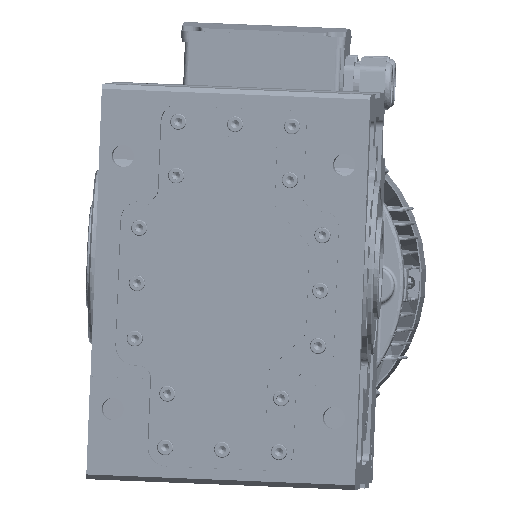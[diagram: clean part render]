
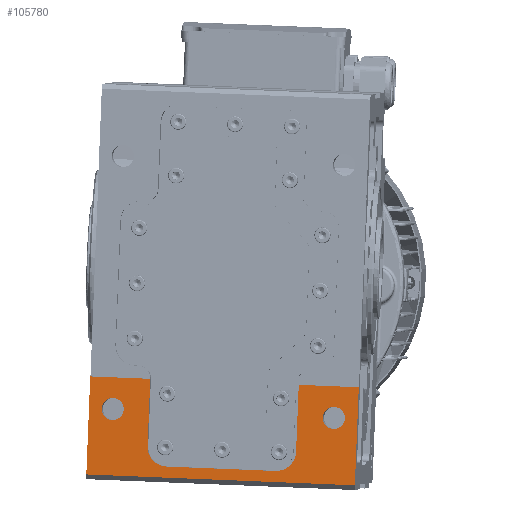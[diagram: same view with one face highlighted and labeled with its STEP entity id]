
A CAD part, top view. The second image highlights one B-rep face of the part: STEP entity #105780.
In plain terms, the highlighted planar face has unit normal (-0.04, -0.008, 0.999) as drawn and (0, 0, 1) by its records, which use the part's own axes.
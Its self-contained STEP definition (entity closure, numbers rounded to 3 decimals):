
#4454 = EDGE_CURVE ( 'NONE', #80803, #80686, #35571, .T. ) ;
#4787 = EDGE_CURVE ( 'NONE', #80717, #80692, #34793, .T. ) ;
#7242 = VERTEX_POINT ( 'NONE', #68568 ) ;
#7333 = VERTEX_POINT ( 'NONE', #68799 ) ;
#7335 = VERTEX_POINT ( 'NONE', #68715 ) ;
#18073 = PLANE ( 'NONE',  #94488 ) ;
#18076 = CARTESIAN_POINT ( 'NONE',  ( 85., 110., 90. ) ) ;
#18085 = DIRECTION ( 'NONE',  ( 0., 0., -1. ) ) ;
#18425 = DIRECTION ( 'NONE',  ( 0., 1., 0. ) ) ;
#34793 = CIRCLE ( 'NONE', #68149, 7. ) ;
#35571 = CIRCLE ( 'NONE', #67999, 7. ) ;
#37305 = AXIS2_PLACEMENT_3D ( 'NONE', #231123, #231291, #231143 ) ;
#37360 = AXIS2_PLACEMENT_3D ( 'NONE', #231680, #231532, #231687 ) ;
#37423 = AXIS2_PLACEMENT_3D ( 'NONE', #231439, #231447, #231443 ) ;
#37463 = AXIS2_PLACEMENT_3D ( 'NONE', #231703, #231590, #231565 ) ;
#47596 = ORIENTED_EDGE ( 'NONE', *, *, #167982, .F. ) ;
#47623 = ORIENTED_EDGE ( 'NONE', *, *, #167932, .F. ) ;
#47628 = ORIENTED_EDGE ( 'NONE', *, *, #164917, .T. ) ;
#47665 = ORIENTED_EDGE ( 'NONE', *, *, #167898, .F. ) ;
#48844 = ORIENTED_EDGE ( 'NONE', *, *, #165087, .F. ) ;
#48876 = ORIENTED_EDGE ( 'NONE', *, *, #164989, .F. ) ;
#48885 = ORIENTED_EDGE ( 'NONE', *, *, #167973, .F. ) ;
#48892 = ORIENTED_EDGE ( 'NONE', *, *, #164116, .F. ) ;
#48911 = ORIENTED_EDGE ( 'NONE', *, *, #167911, .F. ) ;
#48913 = ORIENTED_EDGE ( 'NONE', *, *, #4454, .F. ) ;
#48920 = ORIENTED_EDGE ( 'NONE', *, *, #167907, .F. ) ;
#48927 = ORIENTED_EDGE ( 'NONE', *, *, #167990, .F. ) ;
#48943 = ORIENTED_EDGE ( 'NONE', *, *, #165014, .T. ) ;
#48948 = ORIENTED_EDGE ( 'NONE', *, *, #4787, .F. ) ;
#67999 = AXIS2_PLACEMENT_3D ( 'NONE', #90701, #90707, #90677 ) ;
#68149 = AXIS2_PLACEMENT_3D ( 'NONE', #109342, #109375, #109380 ) ;
#68568 = CARTESIAN_POINT ( 'NONE',  ( -85., -137., 90. ) ) ;
#68715 = CARTESIAN_POINT ( 'NONE',  ( -85., -75., 90. ) ) ;
#68799 = CARTESIAN_POINT ( 'NONE',  ( 85., -137., 90. ) ) ;
#73249 = VERTEX_POINT ( 'NONE', #173598 ) ;
#73329 = VERTEX_POINT ( 'NONE', #173662 ) ;
#73377 = VERTEX_POINT ( 'NONE', #173608 ) ;
#73481 = VERTEX_POINT ( 'NONE', #173617 ) ;
#73487 = VERTEX_POINT ( 'NONE', #173631 ) ;
#73599 = VERTEX_POINT ( 'NONE', #173777 ) ;
#80686 = VERTEX_POINT ( 'NONE', #174195 ) ;
#80692 = VERTEX_POINT ( 'NONE', #174132 ) ;
#80717 = VERTEX_POINT ( 'NONE', #174138 ) ;
#80803 = VERTEX_POINT ( 'NONE', #174331 ) ;
#87395 = LINE ( 'NONE', #231103, #87401 ) ;
#87401 = VECTOR ( 'NONE', #231273, 1000. ) ;
#87575 = CIRCLE ( 'NONE', #37305, 12.5 ) ;
#87626 = CIRCLE ( 'NONE', #37463, 7. ) ;
#87657 = CIRCLE ( 'NONE', #37423, 7. ) ;
#87686 = LINE ( 'NONE', #231107, #87715 ) ;
#87692 = CIRCLE ( 'NONE', #37360, 12.5 ) ;
#87695 = VECTOR ( 'NONE', #231191, 1000. ) ;
#87698 = LINE ( 'NONE', #231164, #87695 ) ;
#87715 = VECTOR ( 'NONE', #231241, 1000. ) ;
#90677 = DIRECTION ( 'NONE',  ( 1., 0., 0. ) ) ;
#90701 = CARTESIAN_POINT ( 'NONE',  ( 70., -95., 90. ) ) ;
#90707 = DIRECTION ( 'NONE',  ( 0., 0., 1. ) ) ;
#94488 = AXIS2_PLACEMENT_3D ( 'NONE', #18076, #18085, #18425 ) ;
#103222 = CARTESIAN_POINT ( 'NONE',  ( 85., -75., 90. ) ) ;
#103234 = DIRECTION ( 'NONE',  ( 1., 0., 0. ) ) ;
#103625 = CARTESIAN_POINT ( 'NONE',  ( 85., -75., 90. ) ) ;
#105652 = FACE_OUTER_BOUND ( 'NONE', #170098, .T. ) ;
#105718 = FACE_BOUND ( 'NONE', #170034, .T. ) ;
#105723 = FACE_BOUND ( 'NONE', #170090, .T. ) ;
#105780 = ADVANCED_FACE ( 'NONE', ( #105723, #105718, #105652 ), #18073, .F. ) ;
#109342 = CARTESIAN_POINT ( 'NONE',  ( -70., -95., 90. ) ) ;
#109375 = DIRECTION ( 'NONE',  ( 0., 0., 1. ) ) ;
#109380 = DIRECTION ( 'NONE',  ( 1., 0., 0. ) ) ;
#148911 = VERTEX_POINT ( 'NONE', #103625 ) ;
#164116 = EDGE_CURVE ( 'NONE', #73481, #148911, #247423, .T. ) ;
#164917 = EDGE_CURVE ( 'NONE', #7335, #7242, #212220, .T. ) ;
#164989 = EDGE_CURVE ( 'NONE', #7335, #73487, #212677, .T. ) ;
#165014 = EDGE_CURVE ( 'NONE', #7242, #7333, #212566, .T. ) ;
#165087 = EDGE_CURVE ( 'NONE', #148911, #7333, #212884, .T. ) ;
#167898 = EDGE_CURVE ( 'NONE', #73487, #73599, #87395, .T. ) ;
#167907 = EDGE_CURVE ( 'NONE', #73599, #73377, #87575, .T. ) ;
#167911 = EDGE_CURVE ( 'NONE', #73329, #73481, #87686, .T. ) ;
#167932 = EDGE_CURVE ( 'NONE', #73377, #73249, #87698, .T. ) ;
#167973 = EDGE_CURVE ( 'NONE', #80686, #80803, #87657, .T. ) ;
#167982 = EDGE_CURVE ( 'NONE', #73249, #73329, #87692, .T. ) ;
#167990 = EDGE_CURVE ( 'NONE', #80692, #80717, #87626, .T. ) ;
#170034 = EDGE_LOOP ( 'NONE', ( #48927, #48948 ) ) ;
#170090 = EDGE_LOOP ( 'NONE', ( #48885, #48913 ) ) ;
#170098 = EDGE_LOOP ( 'NONE', ( #48844, #48892, #48911, #47596, #47623, #48920, #47665, #48876, #47628, #48943 ) ) ;
#173598 = CARTESIAN_POINT ( 'NONE',  ( 34.5, -130., 90. ) ) ;
#173608 = CARTESIAN_POINT ( 'NONE',  ( -34.5, -130., 90. ) ) ;
#173617 = CARTESIAN_POINT ( 'NONE',  ( 47., -75., 90. ) ) ;
#173631 = CARTESIAN_POINT ( 'NONE',  ( -47., -75., 90. ) ) ;
#173662 = CARTESIAN_POINT ( 'NONE',  ( 47., -117.5, 90. ) ) ;
#173777 = CARTESIAN_POINT ( 'NONE',  ( -47., -117.5, 90. ) ) ;
#174132 = CARTESIAN_POINT ( 'NONE',  ( -63., -95., 90. ) ) ;
#174138 = CARTESIAN_POINT ( 'NONE',  ( -77., -95., 90. ) ) ;
#174195 = CARTESIAN_POINT ( 'NONE',  ( 77., -95., 90. ) ) ;
#174331 = CARTESIAN_POINT ( 'NONE',  ( 63., -95., 90. ) ) ;
#203494 = CARTESIAN_POINT ( 'NONE',  ( 85., -137., 90. ) ) ;
#203689 = DIRECTION ( 'NONE',  ( 1., 0., 0. ) ) ;
#203770 = CARTESIAN_POINT ( 'NONE',  ( 85., 0., 90. ) ) ;
#203855 = DIRECTION ( 'NONE',  ( 0., -1., 0. ) ) ;
#208604 = CARTESIAN_POINT ( 'NONE',  ( -85., 110., 90. ) ) ;
#208617 = DIRECTION ( 'NONE',  ( 0., -1., 0. ) ) ;
#208695 = CARTESIAN_POINT ( 'NONE',  ( 85., -75., 90. ) ) ;
#208846 = DIRECTION ( 'NONE',  ( 1., 0., 0. ) ) ;
#212220 = LINE ( 'NONE', #208604, #212226 ) ;
#212226 = VECTOR ( 'NONE', #208617, 1000. ) ;
#212566 = LINE ( 'NONE', #203494, #212789 ) ;
#212621 = VECTOR ( 'NONE', #208846, 1000. ) ;
#212677 = LINE ( 'NONE', #208695, #212621 ) ;
#212789 = VECTOR ( 'NONE', #203689, 1000. ) ;
#212884 = LINE ( 'NONE', #203770, #212988 ) ;
#212988 = VECTOR ( 'NONE', #203855, 1000. ) ;
#231103 = CARTESIAN_POINT ( 'NONE',  ( -47., 110., 90. ) ) ;
#231107 = CARTESIAN_POINT ( 'NONE',  ( 47., 110., 90. ) ) ;
#231123 = CARTESIAN_POINT ( 'NONE',  ( -34.5, -117.5, 90. ) ) ;
#231143 = DIRECTION ( 'NONE',  ( 1., 0., 0. ) ) ;
#231164 = CARTESIAN_POINT ( 'NONE',  ( 85., -130., 90. ) ) ;
#231191 = DIRECTION ( 'NONE',  ( 1., 0., 0. ) ) ;
#231241 = DIRECTION ( 'NONE',  ( 0., 1., 0. ) ) ;
#231273 = DIRECTION ( 'NONE',  ( 0., -1., 0. ) ) ;
#231291 = DIRECTION ( 'NONE',  ( 0., 0., 1. ) ) ;
#231439 = CARTESIAN_POINT ( 'NONE',  ( 70., -95., 90. ) ) ;
#231443 = DIRECTION ( 'NONE',  ( 1., 0., 0. ) ) ;
#231447 = DIRECTION ( 'NONE',  ( 0., 0., 1. ) ) ;
#231532 = DIRECTION ( 'NONE',  ( 0., 0., 1. ) ) ;
#231565 = DIRECTION ( 'NONE',  ( 1., 0., 0. ) ) ;
#231590 = DIRECTION ( 'NONE',  ( 0., 0., 1. ) ) ;
#231680 = CARTESIAN_POINT ( 'NONE',  ( 34.5, -117.5, 90. ) ) ;
#231687 = DIRECTION ( 'NONE',  ( 1., 0., 0. ) ) ;
#231703 = CARTESIAN_POINT ( 'NONE',  ( -70., -95., 90. ) ) ;
#247423 = LINE ( 'NONE', #103222, #247470 ) ;
#247470 = VECTOR ( 'NONE', #103234, 1000. ) ;
